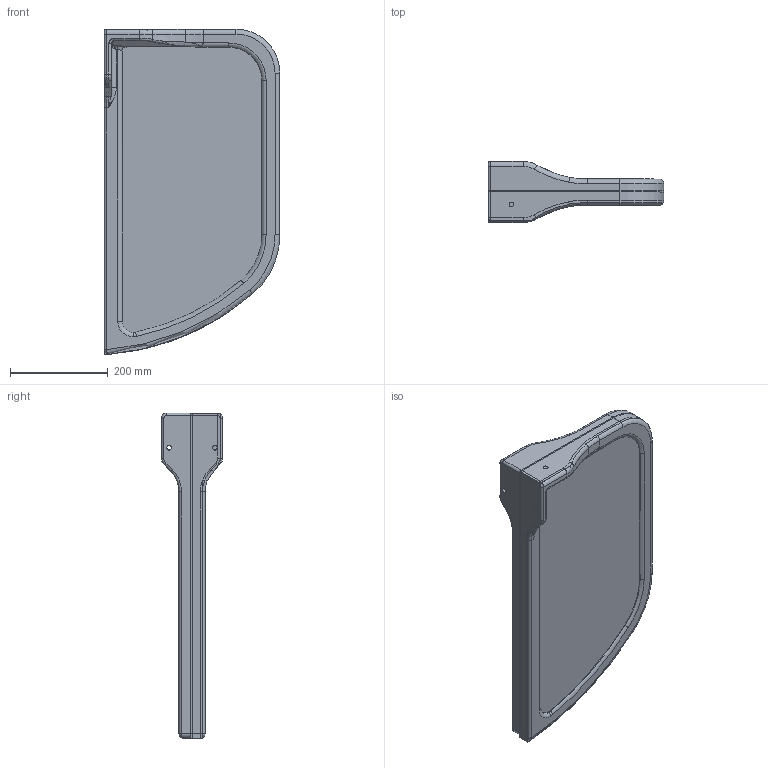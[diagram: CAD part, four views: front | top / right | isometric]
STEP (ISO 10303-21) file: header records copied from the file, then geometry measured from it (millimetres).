
FILE_DESCRIPTION (( 'STEP AP203' ), '1' );
FILE_NAME ('TP660.STEP', '2021-02-15T05:49:55', ( '' ), ( '' ), 'SwSTEP 2.0', 'SolidWorks 2020', '' );
FILE_SCHEMA (( 'CONFIG_CONTROL_DESIGN' ));
Length unit declared in the file: millimetre
Products named in the file (1): TP660
Bounding box: 360 x 125 x 666.61 mm (x, y, z)
Volume: 15811650.1 mm3; surface area: 1556365.9 mm2
Topology: 3 solids, 3 shells, 192 faces, 472 edges, 278 vertices
Faces by surface type: cylinder 76, torus 51, plane 35, bspline 30
Entity records: 7303 total; most frequent: CARTESIAN_POINT 2866, DIRECTION 946, ORIENTED_EDGE 928, EDGE_CURVE 464, AXIS2_PLACEMENT_3D 390, VERTEX_POINT 278, CIRCLE 227, EDGE_LOOP 198
